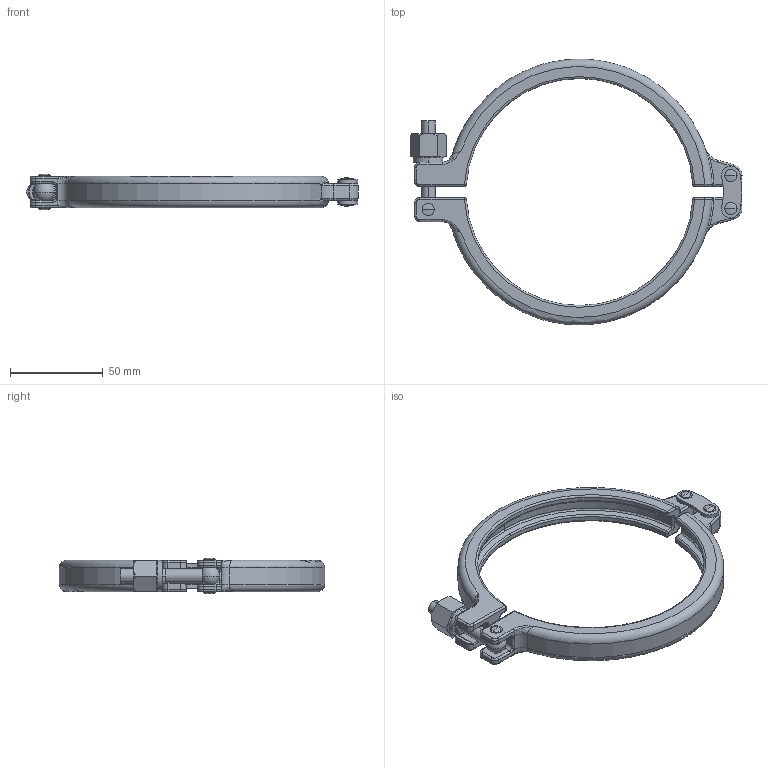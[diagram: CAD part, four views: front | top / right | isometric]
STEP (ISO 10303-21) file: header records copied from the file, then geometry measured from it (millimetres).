
FILE_DESCRIPTION (( 'STEP AP214' ), '1' );
FILE_NAME ('CL.SHX.0450 BLOCK.STEP', '2019-04-03T14:03:57', ( '' ), ( '' ), 'SwSTEP 2.0', 'SolidWorks 2019', '' );
FILE_SCHEMA (( 'AUTOMOTIVE_DESIGN' ));
Length unit declared in the file: millimetre
Products named in the file (1): CL.SHX.0450 BLOCK
Bounding box: 179.45 x 143.57 x 19.3 mm (x, y, z)
Volume: 70259.3 mm3; surface area: 31373.9 mm2
Topology: 3 solids, 3 shells, 398 faces, 932 edges, 527 vertices
Faces by surface type: cylinder 150, torus 77, plane 65, bspline 48, sphere 38, cone 20
Entity records: 13470 total; most frequent: CARTESIAN_POINT 4511, DIRECTION 2009, ORIENTED_EDGE 1814, EDGE_CURVE 907, AXIS2_PLACEMENT_3D 871, VERTEX_POINT 526, CIRCLE 520, EDGE_LOOP 423
